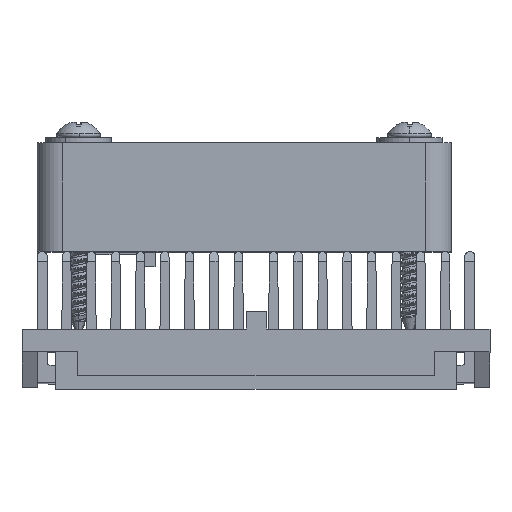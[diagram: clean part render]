
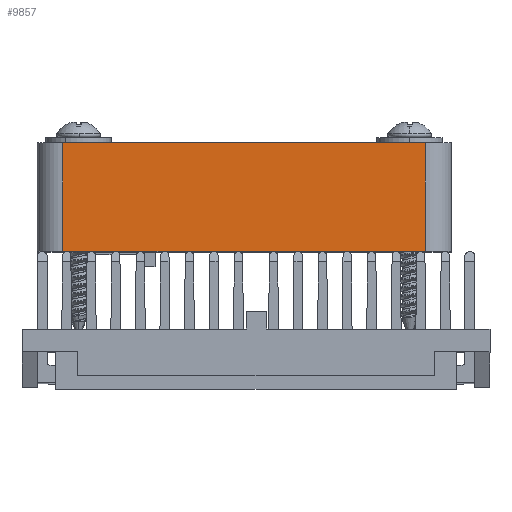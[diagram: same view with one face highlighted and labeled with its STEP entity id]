
A CAD part, top view. The second image highlights one B-rep face of the part: STEP entity #9857.
In plain terms, the highlighted planar face has unit normal (0, 0, 1).
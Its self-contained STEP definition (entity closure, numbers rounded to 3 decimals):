
#2625 = CARTESIAN_POINT ( 'NONE',  ( -18.65, 12.7, 20. ) ) ;
#2825 = DIRECTION ( 'NONE',  ( 1., 0., 0. ) ) ;
#4386 = VERTEX_POINT ( 'NONE', #33086 ) ;
#4930 = LINE ( 'NONE', #19523, #22099 ) ;
#6705 = EDGE_LOOP ( 'NONE', ( #14409, #8706, #32887, #31988 ) ) ;
#7185 = VERTEX_POINT ( 'NONE', #32742 ) ;
#8706 = ORIENTED_EDGE ( 'NONE', *, *, #19673, .F. ) ;
#9857 = ADVANCED_FACE ( 'NONE', ( #19625 ), #33947, .F. ) ;
#10057 = CARTESIAN_POINT ( 'NONE',  ( -18.65, 23.2, 20. ) ) ;
#11592 = EDGE_CURVE ( 'NONE', #7185, #30960, #49495, .T. ) ;
#14111 = LINE ( 'NONE', #43697, #22877 ) ;
#14409 = ORIENTED_EDGE ( 'NONE', *, *, #56156, .T. ) ;
#19030 = VECTOR ( 'NONE', #20853, 1000. ) ;
#19523 = CARTESIAN_POINT ( 'NONE',  ( 16.35, 23.2, 20. ) ) ;
#19625 = FACE_OUTER_BOUND ( 'NONE', #6705, .T. ) ;
#19673 = EDGE_CURVE ( 'NONE', #4386, #37336, #4930, .T. ) ;
#20853 = DIRECTION ( 'NONE',  ( 0., -1., 0. ) ) ;
#22099 = VECTOR ( 'NONE', #29989, 1000. ) ;
#22877 = VECTOR ( 'NONE', #42791, 1000. ) ;
#24428 = DIRECTION ( 'NONE',  ( -1., 0., 0. ) ) ;
#29969 = VECTOR ( 'NONE', #2825, 1000. ) ;
#29989 = DIRECTION ( 'NONE',  ( 0., -1., 0. ) ) ;
#30960 = VERTEX_POINT ( 'NONE', #2625 ) ;
#31988 = ORIENTED_EDGE ( 'NONE', *, *, #11592, .T. ) ;
#32742 = CARTESIAN_POINT ( 'NONE',  ( -18.65, 23.2, 20. ) ) ;
#32887 = ORIENTED_EDGE ( 'NONE', *, *, #58836, .F. ) ;
#33086 = CARTESIAN_POINT ( 'NONE',  ( 16.35, 23.2, 20. ) ) ;
#33947 = PLANE ( 'NONE',  #55840 ) ;
#37336 = VERTEX_POINT ( 'NONE', #49815 ) ;
#37537 = CARTESIAN_POINT ( 'NONE',  ( 16.35, 23.2, 20. ) ) ;
#42791 = DIRECTION ( 'NONE',  ( 1., 0., 0. ) ) ;
#43697 = CARTESIAN_POINT ( 'NONE',  ( 16.35, 12.7, 20. ) ) ;
#48905 = DIRECTION ( 'NONE',  ( 0., 0., -1. ) ) ;
#49495 = LINE ( 'NONE', #10057, #19030 ) ;
#49815 = CARTESIAN_POINT ( 'NONE',  ( 16.35, 12.7, 20. ) ) ;
#49855 = CARTESIAN_POINT ( 'NONE',  ( 16.35, 23.2, 20. ) ) ;
#50884 = LINE ( 'NONE', #37537, #29969 ) ;
#55840 = AXIS2_PLACEMENT_3D ( 'NONE', #49855, #48905, #24428 ) ;
#56156 = EDGE_CURVE ( 'NONE', #30960, #37336, #14111, .T. ) ;
#58836 = EDGE_CURVE ( 'NONE', #7185, #4386, #50884, .T. ) ;
